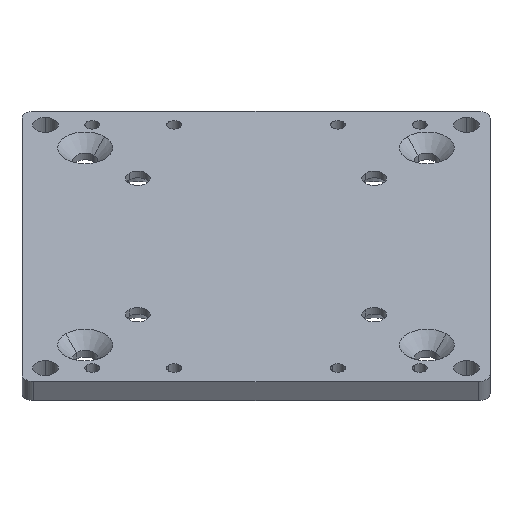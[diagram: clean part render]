
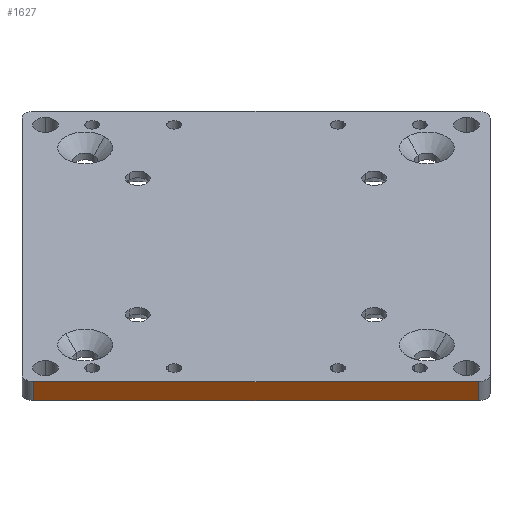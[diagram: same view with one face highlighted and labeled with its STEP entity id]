
A CAD part, isometric view. The second image highlights one B-rep face of the part: STEP entity #1627.
In plain terms, the highlighted planar face has unit normal (-0.707, -0.707, 0).
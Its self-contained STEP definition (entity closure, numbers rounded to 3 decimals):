
#156=DIRECTION('',(0.707,-0.707,0.));
#157=VECTOR('',#156,190.);
#158=CARTESIAN_POINT('',(-137.886,-3.536,0.));
#159=LINE('',#158,#157);
#392=DIRECTION('',(0.707,-0.707,0.));
#393=VECTOR('',#392,190.);
#394=CARTESIAN_POINT('',(-137.886,-3.536,10.));
#395=LINE('',#394,#393);
#612=DIRECTION('',(0.,0.,-1.));
#613=VECTOR('',#612,10.);
#614=CARTESIAN_POINT('',(-137.886,-3.536,10.));
#615=LINE('',#614,#613);
#616=DIRECTION('',(0.,0.,-1.));
#617=VECTOR('',#616,10.);
#618=CARTESIAN_POINT('',(-3.536,-137.886,10.));
#619=LINE('',#618,#617);
#927=CARTESIAN_POINT('',(-137.886,-3.536,0.));
#929=VERTEX_POINT('',#927);
#933=CARTESIAN_POINT('',(-137.886,-3.536,10.));
#934=VERTEX_POINT('',#933);
#952=CARTESIAN_POINT('',(-3.536,-137.886,0.));
#954=VERTEX_POINT('',#952);
#955=CARTESIAN_POINT('',(-3.536,-137.886,10.));
#956=VERTEX_POINT('',#955);
#1616=CARTESIAN_POINT('',(-141.421,0.,0.));
#1617=DIRECTION('',(-0.707,-0.707,0.));
#1618=DIRECTION('',(0.707,-0.707,0.));
#1619=AXIS2_PLACEMENT_3D('',#1616,#1617,#1618);
#1620=PLANE('',#1619);
#1621=ORIENTED_EDGE('',*,*,#1533,.F.);
#1622=ORIENTED_EDGE('',*,*,#1296,.T.);
#1623=ORIENTED_EDGE('',*,*,#1609,.T.);
#1624=ORIENTED_EDGE('',*,*,#1110,.F.);
#1625=EDGE_LOOP('',(#1621,#1622,#1623,#1624));
#1626=FACE_OUTER_BOUND('',#1625,.F.);
#1110=EDGE_CURVE('',#929,#954,#159,.T.);
#1296=EDGE_CURVE('',#934,#956,#395,.T.);
#1533=EDGE_CURVE('',#934,#929,#615,.T.);
#1609=EDGE_CURVE('',#956,#954,#619,.T.);
#1627=ADVANCED_FACE('',(#1626),#1620,.T.);
